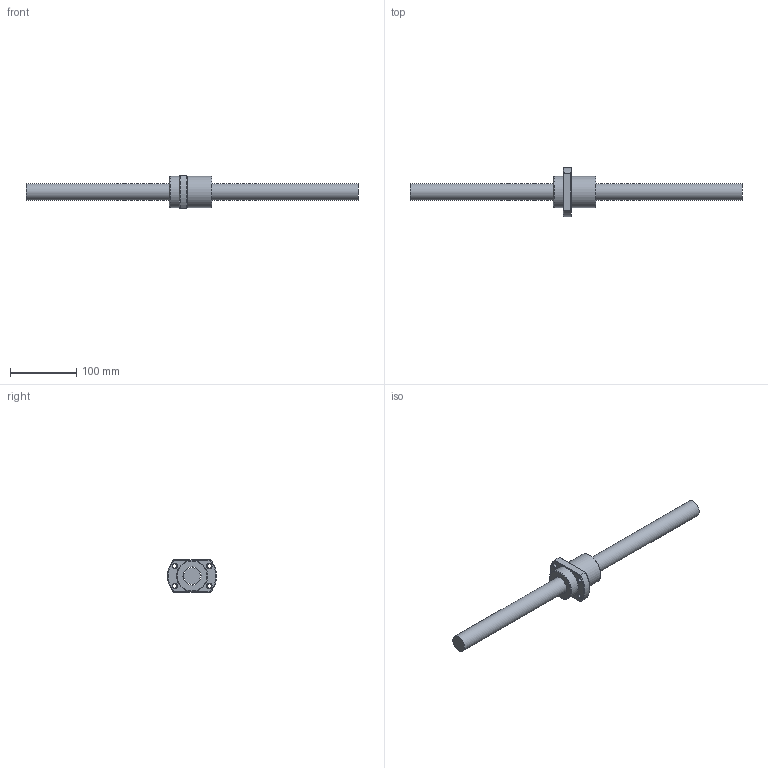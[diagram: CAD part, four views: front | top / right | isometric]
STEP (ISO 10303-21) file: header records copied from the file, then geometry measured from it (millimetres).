
FILE_DESCRIPTION (( 'STEP AP203' ), '1' );
FILE_NAME ('SFYA02525-3.6.step', '2024-05-22T07:51:53', ( '' ), ( '' ), 'SwSTEP 2.0', 'SolidWorks 2022', '' );
FILE_SCHEMA (( 'CONFIG_CONTROL_DESIGN' ));
Length unit declared in the file: millimetre
Products named in the file (1): SFYA02525-3.6
Bounding box: 500 x 73.88 x 49 mm (x, y, z)
Volume: 336040.3 mm3; surface area: 62183.7 mm2
Topology: 2 solids, 2 shells, 51 faces, 124 edges, 79 vertices
Faces by surface type: cylinder 18, plane 13, cone 9, torus 6, bspline 5
Full cylindrical faces by diameter (mm): 3 x1, 5 x6, 6.6 x4, 25 x1, 27.3 x1, 47 x2
Entity records: 3026 total; most frequent: CARTESIAN_POINT 2065, DIRECTION 170, ORIENTED_EDGE 156, EDGE_LOOP 80, EDGE_CURVE 78, AXIS2_PLACEMENT_3D 77, VERTEX_POINT 62, FACE_OUTER_BOUND 57
